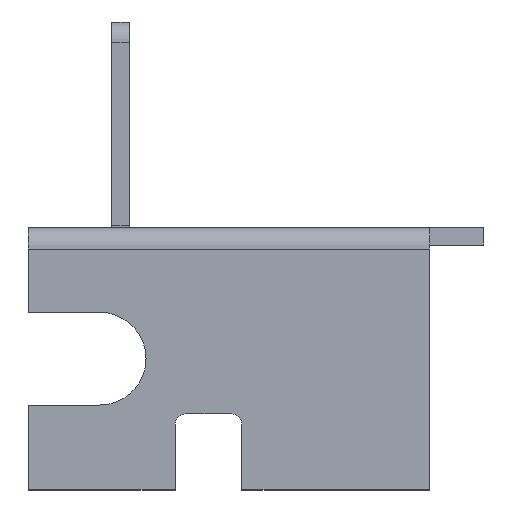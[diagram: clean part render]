
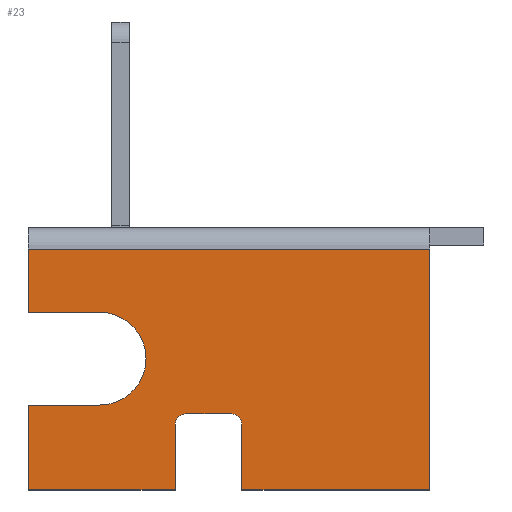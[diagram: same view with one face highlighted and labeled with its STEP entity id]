
A CAD part, left-side view. The second image highlights one B-rep face of the part: STEP entity #23.
In plain terms, the highlighted planar face has unit normal (-1, 0, 0).
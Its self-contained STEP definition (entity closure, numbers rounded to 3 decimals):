
#11 = VECTOR ( 'NONE', #344, 1000. ) ;
#23 = ADVANCED_FACE ( 'NONE', ( #2584 ), #314, .F. ) ;
#71 = VERTEX_POINT ( 'NONE', #337 ) ;
#75 = VERTEX_POINT ( 'NONE', #358 ) ;
#89 = EDGE_CURVE ( 'NONE', #782, #2032, #596, .T. ) ;
#150 = LINE ( 'NONE', #326, #2165 ) ;
#173 = EDGE_CURVE ( 'NONE', #2721, #2853, #594, .T. ) ;
#246 = CARTESIAN_POINT ( 'NONE',  ( -60.85, 5.55, -11.75 ) ) ;
#273 = LINE ( 'NONE', #501, #1499 ) ;
#278 = DIRECTION ( 'NONE',  ( -1., 0., 0. ) ) ;
#314 = PLANE ( 'NONE',  #2798 ) ;
#318 = CARTESIAN_POINT ( 'NONE',  ( -60.85, 2.35, -8.6 ) ) ;
#326 = CARTESIAN_POINT ( 'NONE',  ( -60.85, 2.35, -11.75 ) ) ;
#337 = CARTESIAN_POINT ( 'NONE',  ( -60.85, 9.175, -7.675 ) ) ;
#344 = DIRECTION ( 'NONE',  ( 0., -1., 0. ) ) ;
#358 = CARTESIAN_POINT ( 'NONE',  ( -60.85, 2.85, -8.1 ) ) ;
#391 = EDGE_CURVE ( 'NONE', #986, #2721, #1730, .T. ) ;
#420 = CARTESIAN_POINT ( 'NONE',  ( -60.85, 5.05, -8.1 ) ) ;
#459 = DIRECTION ( 'NONE',  ( 0., 0., -1. ) ) ;
#473 = ORIENTED_EDGE ( 'NONE', *, *, #1459, .F. ) ;
#476 = EDGE_CURVE ( 'NONE', #2138, #75, #2772, .T. ) ;
#501 = CARTESIAN_POINT ( 'NONE',  ( -60.85, -6.65, -11.75 ) ) ;
#526 = ORIENTED_EDGE ( 'NONE', *, *, #1529, .F. ) ;
#536 = LINE ( 'NONE', #2535, #2370 ) ;
#543 = VERTEX_POINT ( 'NONE', #1695 ) ;
#582 = CARTESIAN_POINT ( 'NONE',  ( -60.85, -6.65, -11.75 ) ) ;
#594 = LINE ( 'NONE', #1280, #2581 ) ;
#596 = LINE ( 'NONE', #2709, #935 ) ;
#609 = LINE ( 'NONE', #2812, #1651 ) ;
#686 = EDGE_CURVE ( 'NONE', #1700, #1637, #2408, .T. ) ;
#688 = VECTOR ( 'NONE', #2127, 1000. ) ;
#782 = VERTEX_POINT ( 'NONE', #1351 ) ;
#826 = CARTESIAN_POINT ( 'NONE',  ( -60.85, 5.55, -8.6 ) ) ;
#835 = VECTOR ( 'NONE', #459, 1000. ) ;
#846 = EDGE_CURVE ( 'NONE', #1637, #2853, #1543, .T. ) ;
#860 = DIRECTION ( 'NONE',  ( -1., 0., 0. ) ) ;
#871 = EDGE_CURVE ( 'NONE', #75, #1700, #609, .T. ) ;
#935 = VECTOR ( 'NONE', #1538, 1000. ) ;
#955 = VERTEX_POINT ( 'NONE', #2391 ) ;
#986 = VERTEX_POINT ( 'NONE', #2164 ) ;
#1030 = ORIENTED_EDGE ( 'NONE', *, *, #846, .F. ) ;
#1038 = EDGE_CURVE ( 'NONE', #782, #2958, #2257, .T. ) ;
#1077 = EDGE_CURVE ( 'NONE', #955, #1513, #273, .T. ) ;
#1078 = DIRECTION ( 'NONE',  ( 0., 0., 1. ) ) ;
#1146 = ORIENTED_EDGE ( 'NONE', *, *, #2505, .T. ) ;
#1204 = CARTESIAN_POINT ( 'NONE',  ( -60.85, 0., -0.2 ) ) ;
#1231 = CARTESIAN_POINT ( 'NONE',  ( -60.85, 0., 0. ) ) ;
#1280 = CARTESIAN_POINT ( 'NONE',  ( -60.85, -6.65, -11.75 ) ) ;
#1287 = EDGE_CURVE ( 'NONE', #543, #2032, #536, .T. ) ;
#1311 = AXIS2_PLACEMENT_3D ( 'NONE', #1466, #278, #1956 ) ;
#1351 = CARTESIAN_POINT ( 'NONE',  ( -60.85, 12.6, -0.2 ) ) ;
#1382 = DIRECTION ( 'NONE',  ( 0., 0., 1. ) ) ;
#1390 = ORIENTED_EDGE ( 'NONE', *, *, #1038, .F. ) ;
#1459 = EDGE_CURVE ( 'NONE', #955, #2138, #150, .T. ) ;
#1466 = CARTESIAN_POINT ( 'NONE',  ( -60.85, 2.85, -8.6 ) ) ;
#1499 = VECTOR ( 'NONE', #2406, 1000. ) ;
#1513 = VERTEX_POINT ( 'NONE', #582 ) ;
#1529 = EDGE_CURVE ( 'NONE', #986, #71, #2061, .T. ) ;
#1538 = DIRECTION ( 'NONE',  ( 0., 0., -1. ) ) ;
#1543 = LINE ( 'NONE', #2350, #835 ) ;
#1615 = VECTOR ( 'NONE', #2855, 1000. ) ;
#1637 = VERTEX_POINT ( 'NONE', #826 ) ;
#1647 = DIRECTION ( 'NONE',  ( 0., 1., 0. ) ) ;
#1651 = VECTOR ( 'NONE', #1647, 1000. ) ;
#1663 = EDGE_CURVE ( 'NONE', #71, #543, #2913, .T. ) ;
#1695 = CARTESIAN_POINT ( 'NONE',  ( -60.85, 9.175, -3.225 ) ) ;
#1700 = VERTEX_POINT ( 'NONE', #420 ) ;
#1730 = LINE ( 'NONE', #2382, #688 ) ;
#1759 = DIRECTION ( 'NONE',  ( 0., -1., 0. ) ) ;
#1781 = DIRECTION ( 'NONE',  ( 0., 0., -1. ) ) ;
#1956 = DIRECTION ( 'NONE',  ( 0., 0., 1. ) ) ;
#2032 = VERTEX_POINT ( 'NONE', #2870 ) ;
#2061 = LINE ( 'NONE', #2927, #11 ) ;
#2127 = DIRECTION ( 'NONE',  ( 0., 0., -1. ) ) ;
#2138 = VERTEX_POINT ( 'NONE', #318 ) ;
#2141 = ORIENTED_EDGE ( 'NONE', *, *, #89, .T. ) ;
#2164 = CARTESIAN_POINT ( 'NONE',  ( -60.85, 12.6, -7.675 ) ) ;
#2165 = VECTOR ( 'NONE', #2894, 1000. ) ;
#2215 = CARTESIAN_POINT ( 'NONE',  ( -60.85, 5.05, -8.6 ) ) ;
#2257 = LINE ( 'NONE', #1204, #1615 ) ;
#2283 = AXIS2_PLACEMENT_3D ( 'NONE', #2215, #2468, #1781 ) ;
#2289 = ORIENTED_EDGE ( 'NONE', *, *, #1663, .F. ) ;
#2308 = CARTESIAN_POINT ( 'NONE',  ( -60.85, -6.65, 0. ) ) ;
#2336 = ORIENTED_EDGE ( 'NONE', *, *, #173, .T. ) ;
#2350 = CARTESIAN_POINT ( 'NONE',  ( -60.85, 5.55, -11.75 ) ) ;
#2370 = VECTOR ( 'NONE', #2762, 1000. ) ;
#2382 = CARTESIAN_POINT ( 'NONE',  ( -60.85, 12.6, -11.75 ) ) ;
#2385 = AXIS2_PLACEMENT_3D ( 'NONE', #2963, #860, #1078 ) ;
#2390 = CARTESIAN_POINT ( 'NONE',  ( -60.85, 12.6, -11.75 ) ) ;
#2391 = CARTESIAN_POINT ( 'NONE',  ( -60.85, 2.35, -11.75 ) ) ;
#2406 = DIRECTION ( 'NONE',  ( 0., -1., 0. ) ) ;
#2408 = CIRCLE ( 'NONE', #2283, 0.5 ) ;
#2468 = DIRECTION ( 'NONE',  ( -1., 0., 0. ) ) ;
#2472 = DIRECTION ( 'NONE',  ( 0., 0., -1. ) ) ;
#2497 = CARTESIAN_POINT ( 'NONE',  ( -60.85, -6.65, -0.2 ) ) ;
#2505 = EDGE_CURVE ( 'NONE', #1513, #2958, #2529, .T. ) ;
#2529 = LINE ( 'NONE', #2308, #2950 ) ;
#2535 = CARTESIAN_POINT ( 'NONE',  ( -60.85, 9.175, -3.225 ) ) ;
#2581 = VECTOR ( 'NONE', #1759, 1000. ) ;
#2584 = FACE_OUTER_BOUND ( 'NONE', #3051, .T. ) ;
#2649 = ORIENTED_EDGE ( 'NONE', *, *, #871, .F. ) ;
#2709 = CARTESIAN_POINT ( 'NONE',  ( -60.85, 12.6, -11.75 ) ) ;
#2720 = ORIENTED_EDGE ( 'NONE', *, *, #1287, .F. ) ;
#2721 = VERTEX_POINT ( 'NONE', #2390 ) ;
#2726 = ORIENTED_EDGE ( 'NONE', *, *, #476, .F. ) ;
#2753 = ORIENTED_EDGE ( 'NONE', *, *, #391, .T. ) ;
#2762 = DIRECTION ( 'NONE',  ( 0., 1., 0. ) ) ;
#2772 = CIRCLE ( 'NONE', #1311, 0.5 ) ;
#2798 = AXIS2_PLACEMENT_3D ( 'NONE', #1231, #2879, #2472 ) ;
#2812 = CARTESIAN_POINT ( 'NONE',  ( -60.85, 5.05, -8.1 ) ) ;
#2853 = VERTEX_POINT ( 'NONE', #246 ) ;
#2855 = DIRECTION ( 'NONE',  ( 0., -1., 0. ) ) ;
#2866 = ORIENTED_EDGE ( 'NONE', *, *, #1077, .T. ) ;
#2870 = CARTESIAN_POINT ( 'NONE',  ( -60.85, 12.6, -3.225 ) ) ;
#2879 = DIRECTION ( 'NONE',  ( 1., 0., 0. ) ) ;
#2894 = DIRECTION ( 'NONE',  ( 0., 0., 1. ) ) ;
#2913 = CIRCLE ( 'NONE', #2385, 2.225 ) ;
#2927 = CARTESIAN_POINT ( 'NONE',  ( -60.85, 12.6, -7.675 ) ) ;
#2950 = VECTOR ( 'NONE', #1382, 1000. ) ;
#2958 = VERTEX_POINT ( 'NONE', #2497 ) ;
#2963 = CARTESIAN_POINT ( 'NONE',  ( -60.85, 9.175, -5.45 ) ) ;
#3013 = ORIENTED_EDGE ( 'NONE', *, *, #686, .F. ) ;
#3051 = EDGE_LOOP ( 'NONE', ( #2289, #526, #2753, #2336, #1030, #3013, #2649, #2726, #473, #2866, #1146, #1390, #2141, #2720 ) ) ;
